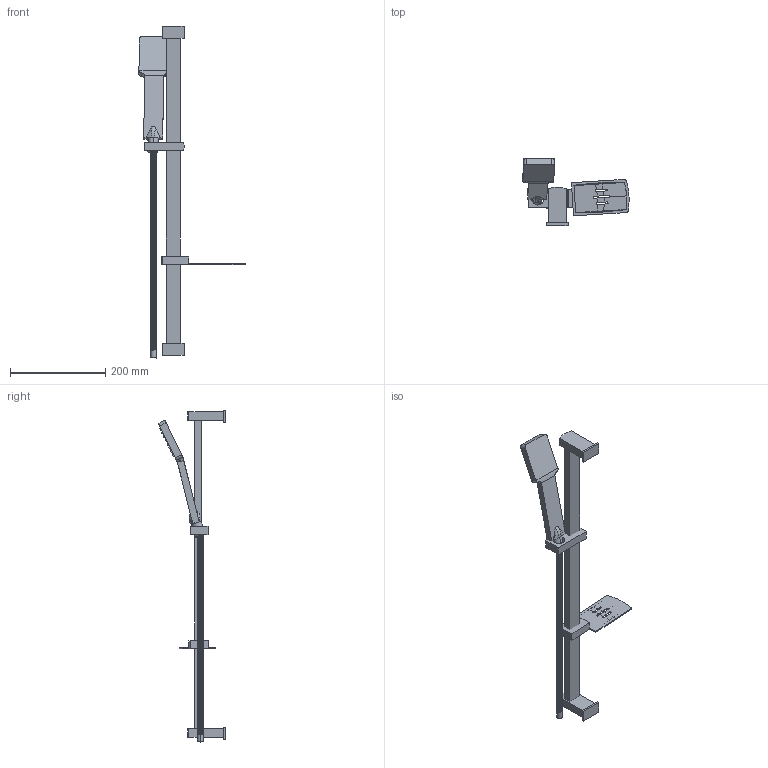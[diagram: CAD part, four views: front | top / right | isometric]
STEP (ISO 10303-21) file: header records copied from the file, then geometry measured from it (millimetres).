
FILE_DESCRIPTION (( 'STEP AP203' ), '1' );
FILE_NAME ('DS.SH453.STEP', '2022-08-08T14:50:01', ( '' ), ( '' ), 'SwSTEP 2.0', 'SolidWorks 2021', '' );
FILE_SCHEMA (( 'CONFIG_CONTROL_DESIGN' ));
Length unit declared in the file: inch
Products named in the file (1): DS.SH453
Bounding box: 223.56 x 141.22 x 698.75 mm (x, y, z)
Volume: 722761.6 mm3; surface area: 170554 mm2
Topology: 7 solids, 7 shells, 826 faces, 2126 edges, 1408 vertices
Faces by surface type: cylinder 422, plane 377, bspline 21, cone 4, torus 2
Entity records: 40726 total; most frequent: CARTESIAN_POINT 22188, ORIENTED_EDGE 4244, DIRECTION 3358, EDGE_CURVE 2122, VERTEX_POINT 1408, VECTOR 1194, LINE 1194, AXIS2_PLACEMENT_3D 1082
